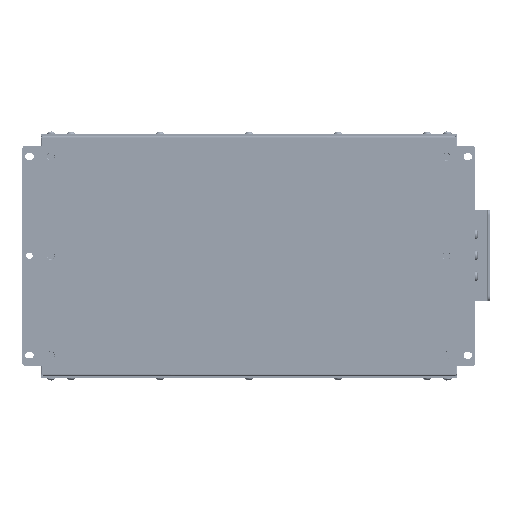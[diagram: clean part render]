
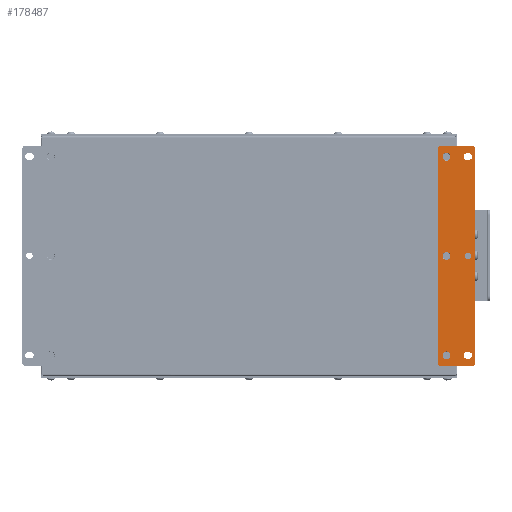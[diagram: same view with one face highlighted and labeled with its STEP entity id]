
A CAD part, front view. The second image highlights one B-rep face of the part: STEP entity #178487.
In plain terms, the highlighted planar face has unit normal (0, -1, 0).
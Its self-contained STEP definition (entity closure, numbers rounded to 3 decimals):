
#6678=FACE_BOUND('',#31567,.T.);
#6679=FACE_BOUND('',#31568,.T.);
#6680=FACE_BOUND('',#31569,.T.);
#6681=FACE_BOUND('',#31570,.T.);
#6682=FACE_BOUND('',#31571,.T.);
#6683=FACE_BOUND('',#31572,.T.);
#11865=PLANE('',#191651);
#21178=FACE_OUTER_BOUND('',#31566,.T.);
#31566=EDGE_LOOP('',(#156351,#156352,#156353,#156354,#156355,#156356,#156357,
#156358));
#31567=EDGE_LOOP('',(#156359));
#31568=EDGE_LOOP('',(#156360));
#31569=EDGE_LOOP('',(#156361));
#31570=EDGE_LOOP('',(#156362));
#31571=EDGE_LOOP('',(#156363,#156364,#156365,#156366));
#31572=EDGE_LOOP('',(#156367,#156368,#156369,#156370));
#36675=CIRCLE('',#191652,4.);
#36676=CIRCLE('',#191653,4.);
#36677=CIRCLE('',#191654,4.);
#36678=CIRCLE('',#191655,4.);
#36679=CIRCLE('',#191656,4.);
#36680=CIRCLE('',#191657,4.);
#36681=CIRCLE('',#191658,4.);
#36682=CIRCLE('',#191659,3.3);
#36683=CIRCLE('',#191660,3.3);
#36684=CIRCLE('',#191661,3.3);
#36685=CIRCLE('',#191662,3.3);
#36686=CIRCLE('',#191663,3.3);
#52293=LINE('',#327179,#67939);
#52294=LINE('',#327183,#67940);
#52295=LINE('',#327187,#67941);
#52296=LINE('',#327191,#67942);
#52297=LINE('',#327205,#67943);
#52298=LINE('',#327208,#67944);
#52299=LINE('',#327213,#67945);
#52300=LINE('',#327216,#67946);
#67939=VECTOR('',#233190,10.);
#67940=VECTOR('',#233193,10.);
#67941=VECTOR('',#233196,10.);
#67942=VECTOR('',#233199,10.);
#67943=VECTOR('',#233212,10.);
#67944=VECTOR('',#233215,10.);
#67945=VECTOR('',#233218,10.);
#67946=VECTOR('',#233221,10.);
#83831=VERTEX_POINT('',#327177);
#83832=VERTEX_POINT('',#327178);
#83833=VERTEX_POINT('',#327180);
#83834=VERTEX_POINT('',#327182);
#83835=VERTEX_POINT('',#327184);
#83836=VERTEX_POINT('',#327186);
#83837=VERTEX_POINT('',#327188);
#83838=VERTEX_POINT('',#327190);
#83839=VERTEX_POINT('',#327193);
#83840=VERTEX_POINT('',#327195);
#83841=VERTEX_POINT('',#327197);
#83842=VERTEX_POINT('',#327199);
#83843=VERTEX_POINT('',#327201);
#83844=VERTEX_POINT('',#327202);
#83845=VERTEX_POINT('',#327204);
#83846=VERTEX_POINT('',#327206);
#83847=VERTEX_POINT('',#327209);
#83848=VERTEX_POINT('',#327210);
#83849=VERTEX_POINT('',#327212);
#83850=VERTEX_POINT('',#327214);
#108145=EDGE_CURVE('',#83831,#83832,#52293,.T.);
#108146=EDGE_CURVE('',#83832,#83833,#36675,.T.);
#108147=EDGE_CURVE('',#83833,#83834,#52294,.T.);
#108148=EDGE_CURVE('',#83834,#83835,#36676,.T.);
#108149=EDGE_CURVE('',#83835,#83836,#52295,.T.);
#108150=EDGE_CURVE('',#83836,#83837,#36677,.T.);
#108151=EDGE_CURVE('',#83837,#83838,#52296,.T.);
#108152=EDGE_CURVE('',#83838,#83831,#36678,.T.);
#108153=EDGE_CURVE('',#83839,#83839,#36679,.T.);
#108154=EDGE_CURVE('',#83840,#83840,#36680,.T.);
#108155=EDGE_CURVE('',#83841,#83841,#36681,.T.);
#108156=EDGE_CURVE('',#83842,#83842,#36682,.T.);
#108157=EDGE_CURVE('',#83843,#83844,#36683,.T.);
#108158=EDGE_CURVE('',#83844,#83845,#52297,.T.);
#108159=EDGE_CURVE('',#83845,#83846,#36684,.T.);
#108160=EDGE_CURVE('',#83846,#83843,#52298,.T.);
#108161=EDGE_CURVE('',#83847,#83848,#36685,.T.);
#108162=EDGE_CURVE('',#83848,#83849,#52299,.T.);
#108163=EDGE_CURVE('',#83849,#83850,#36686,.T.);
#108164=EDGE_CURVE('',#83850,#83847,#52300,.T.);
#156351=ORIENTED_EDGE('',*,*,#108145,.T.);
#156352=ORIENTED_EDGE('',*,*,#108146,.T.);
#156353=ORIENTED_EDGE('',*,*,#108147,.T.);
#156354=ORIENTED_EDGE('',*,*,#108148,.T.);
#156355=ORIENTED_EDGE('',*,*,#108149,.T.);
#156356=ORIENTED_EDGE('',*,*,#108150,.T.);
#156357=ORIENTED_EDGE('',*,*,#108151,.T.);
#156358=ORIENTED_EDGE('',*,*,#108152,.T.);
#156359=ORIENTED_EDGE('',*,*,#108153,.T.);
#156360=ORIENTED_EDGE('',*,*,#108154,.T.);
#156361=ORIENTED_EDGE('',*,*,#108155,.T.);
#156362=ORIENTED_EDGE('',*,*,#108156,.T.);
#156363=ORIENTED_EDGE('',*,*,#108157,.T.);
#156364=ORIENTED_EDGE('',*,*,#108158,.T.);
#156365=ORIENTED_EDGE('',*,*,#108159,.T.);
#156366=ORIENTED_EDGE('',*,*,#108160,.T.);
#156367=ORIENTED_EDGE('',*,*,#108161,.T.);
#156368=ORIENTED_EDGE('',*,*,#108162,.T.);
#156369=ORIENTED_EDGE('',*,*,#108163,.T.);
#156370=ORIENTED_EDGE('',*,*,#108164,.T.);
#178487=ADVANCED_FACE('',(#21178,#6678,#6679,#6680,#6681,#6682,#6683),#11865,
 .T.);
#191651=AXIS2_PLACEMENT_3D('',#327176,#233188,#233189);
#191652=AXIS2_PLACEMENT_3D('',#327181,#233191,#233192);
#191653=AXIS2_PLACEMENT_3D('',#327185,#233194,#233195);
#191654=AXIS2_PLACEMENT_3D('',#327189,#233197,#233198);
#191655=AXIS2_PLACEMENT_3D('',#327192,#233200,#233201);
#191656=AXIS2_PLACEMENT_3D('',#327194,#233202,#233203);
#191657=AXIS2_PLACEMENT_3D('',#327196,#233204,#233205);
#191658=AXIS2_PLACEMENT_3D('',#327198,#233206,#233207);
#191659=AXIS2_PLACEMENT_3D('',#327200,#233208,#233209);
#191660=AXIS2_PLACEMENT_3D('',#327203,#233210,#233211);
#191661=AXIS2_PLACEMENT_3D('',#327207,#233213,#233214);
#191662=AXIS2_PLACEMENT_3D('',#327211,#233216,#233217);
#191663=AXIS2_PLACEMENT_3D('',#327215,#233219,#233220);
#233188=DIRECTION('center_axis',(0.,-1.,0.));
#233189=DIRECTION('ref_axis',(1.,0.,0.));
#233190=DIRECTION('',(0.,0.,1.));
#233191=DIRECTION('center_axis',(0.,-1.,0.));
#233192=DIRECTION('ref_axis',(1.,0.,0.));
#233193=DIRECTION('',(-1.,0.,0.));
#233194=DIRECTION('center_axis',(0.,-1.,0.));
#233195=DIRECTION('ref_axis',(0.,0.,
1.));
#233196=DIRECTION('',(0.,0.,-1.));
#233197=DIRECTION('center_axis',(0.,-1.,0.));
#233198=DIRECTION('ref_axis',(-1.,0.,0.));
#233199=DIRECTION('',(1.,0.,0.));
#233200=DIRECTION('center_axis',(0.,-1.,0.));
#233201=DIRECTION('ref_axis',(0.,0.,
-1.));
#233202=DIRECTION('center_axis',(0.,1.,0.));
#233203=DIRECTION('ref_axis',(0.,0.,
1.));
#233204=DIRECTION('center_axis',(0.,1.,0.));
#233205=DIRECTION('ref_axis',(0.,0.,
1.));
#233206=DIRECTION('center_axis',(0.,1.,0.));
#233207=DIRECTION('ref_axis',(0.,0.,
1.));
#233208=DIRECTION('center_axis',(0.,1.,0.));
#233209=DIRECTION('ref_axis',(0.,0.,
1.));
#233210=DIRECTION('center_axis',(0.,1.,0.));
#233211=DIRECTION('ref_axis',(0.,0.,
-1.));
#233212=DIRECTION('',(1.,0.,0.));
#233213=DIRECTION('center_axis',(0.,1.,0.));
#233214=DIRECTION('ref_axis',(0.,0.,
1.));
#233215=DIRECTION('',(-1.,0.,0.));
#233216=DIRECTION('center_axis',(0.,1.,0.));
#233217=DIRECTION('ref_axis',(0.,0.,
-1.));
#233218=DIRECTION('',(1.,0.,0.));
#233219=DIRECTION('center_axis',(0.,1.,0.));
#233220=DIRECTION('ref_axis',(0.,0.,
1.));
#233221=DIRECTION('',(-1.,0.,0.));
#327176=CARTESIAN_POINT('Origin',(208.605,-71.961,-0.027));
#327177=CARTESIAN_POINT('',(227.605,-71.961,-107.027));
#327178=CARTESIAN_POINT('',(227.605,-71.961,106.973));
#327179=CARTESIAN_POINT('',(227.605,-71.961,-107.027));
#327180=CARTESIAN_POINT('',(223.605,-71.961,110.973));
#327181=CARTESIAN_POINT('Origin',(223.605,-71.961,106.973));
#327182=CARTESIAN_POINT('',(193.605,-71.961,110.973));
#327183=CARTESIAN_POINT('',(223.605,-71.961,110.973));
#327184=CARTESIAN_POINT('',(189.605,-71.961,106.973));
#327185=CARTESIAN_POINT('Origin',(193.605,-71.961,106.973));
#327186=CARTESIAN_POINT('',(189.605,-71.961,-107.027));
#327187=CARTESIAN_POINT('',(189.605,-71.961,106.973));
#327188=CARTESIAN_POINT('',(193.605,-71.961,-111.027));
#327189=CARTESIAN_POINT('Origin',(193.605,-71.961,-107.027));
#327190=CARTESIAN_POINT('',(223.605,-71.961,-111.027));
#327191=CARTESIAN_POINT('',(193.605,-71.961,-111.027));
#327192=CARTESIAN_POINT('Origin',(223.605,-71.961,-107.027));
#327193=CARTESIAN_POINT('',(198.605,-71.961,95.973));
#327194=CARTESIAN_POINT('Origin',(198.605,-71.961,99.973));
#327195=CARTESIAN_POINT('',(198.605,-71.961,-4.027));
#327196=CARTESIAN_POINT('Origin',(198.605,-71.961,-0.027));
#327197=CARTESIAN_POINT('',(198.605,-71.961,-104.027));
#327198=CARTESIAN_POINT('Origin',(198.605,-71.961,-100.027));
#327199=CARTESIAN_POINT('',(220.105,-71.961,-3.327));
#327200=CARTESIAN_POINT('Origin',(220.105,-71.961,-0.027));
#327201=CARTESIAN_POINT('',(219.105,-71.961,96.673));
#327202=CARTESIAN_POINT('',(219.105,-71.961,103.273));
#327203=CARTESIAN_POINT('Origin',(219.105,-71.961,99.973));
#327204=CARTESIAN_POINT('',(221.105,-71.961,103.273));
#327205=CARTESIAN_POINT('',(219.105,-71.961,103.273));
#327206=CARTESIAN_POINT('',(221.105,-71.961,96.673));
#327207=CARTESIAN_POINT('Origin',(221.105,-71.961,99.973));
#327208=CARTESIAN_POINT('',(221.105,-71.961,96.673));
#327209=CARTESIAN_POINT('',(219.105,-71.961,-103.327));
#327210=CARTESIAN_POINT('',(219.105,-71.961,-96.727));
#327211=CARTESIAN_POINT('Origin',(219.105,-71.961,-100.027));
#327212=CARTESIAN_POINT('',(221.105,-71.961,-96.727));
#327213=CARTESIAN_POINT('',(219.105,-71.961,-96.727));
#327214=CARTESIAN_POINT('',(221.105,-71.961,-103.327));
#327215=CARTESIAN_POINT('Origin',(221.105,-71.961,-100.027));
#327216=CARTESIAN_POINT('',(221.105,-71.961,-103.327));
